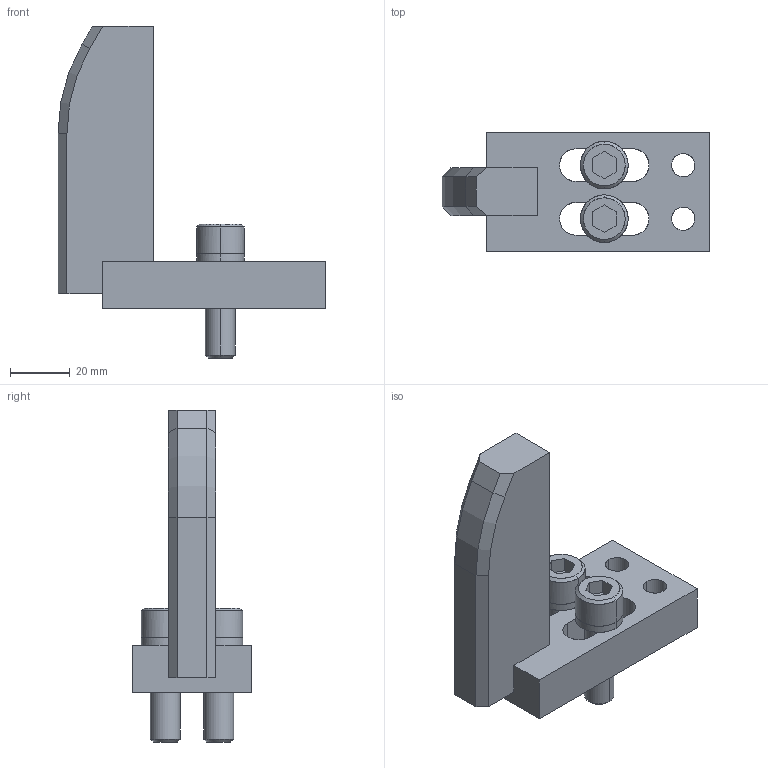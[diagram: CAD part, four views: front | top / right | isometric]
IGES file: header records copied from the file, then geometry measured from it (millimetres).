
Global section: file name: E:\UnigraphicsGraphicData\MISUMI_PRESS-PARTS\IGES\3d_ngnbc-95-20-m10_01533_r00.igs; native system: NX V5.0; preprocessor: UGS NX IGES V5.0; author: MISUMI; date: 20110105.162053; units: millimetre
Bounding box: 90 x 40 x 111.5 mm (x, y, z)
Surface area: 26128 mm2 (no closed solid volume)
Topology: 0 solids, 0 shells, 104 faces, 665 edges, 665 vertices
Faces by surface type: bspline 104
